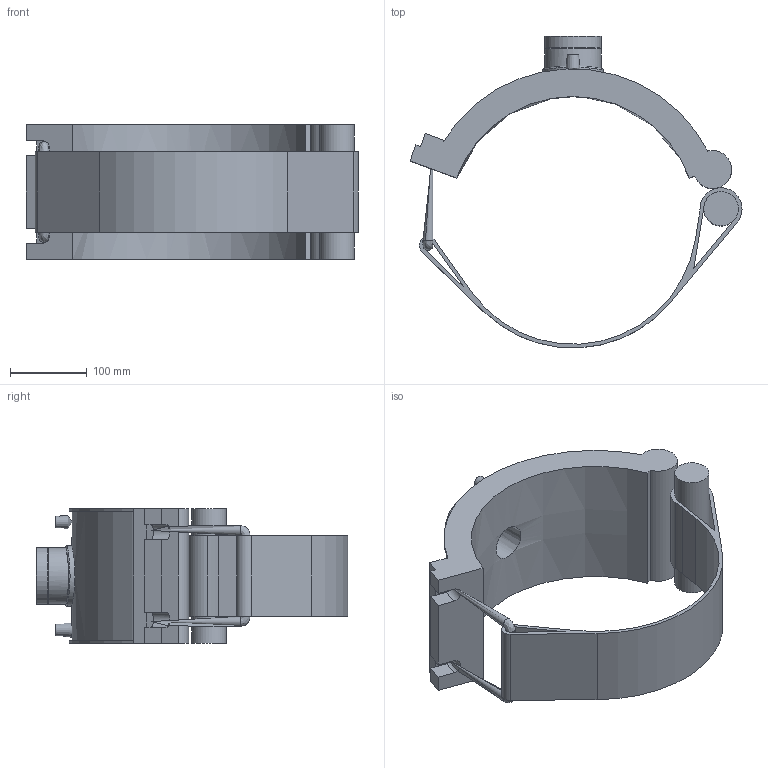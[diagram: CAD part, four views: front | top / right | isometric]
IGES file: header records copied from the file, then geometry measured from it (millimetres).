
Global section: file name: 5938B01312055.ipt; native system: Autodesk Inventor 2019; preprocessor: unknown; author: KIM; date: 20210830.101111; units: inch
Bounding box: 433.39 x 407.09 x 176.02 mm (x, y, z)
Volume: 3747333.6 mm3; surface area: 457086.6 mm2
Topology: 2 solids, 2 shells, 78 faces, 198 edges, 130 vertices
Faces by surface type: plane 42, cylinder 19, revolution 11, cone 5, bspline 1
Full cylindrical faces by diameter (mm): 4 x2, 12.936 x2, 45.027 x1, 72.653 x1, 73.653 x2, 79.318 x1
